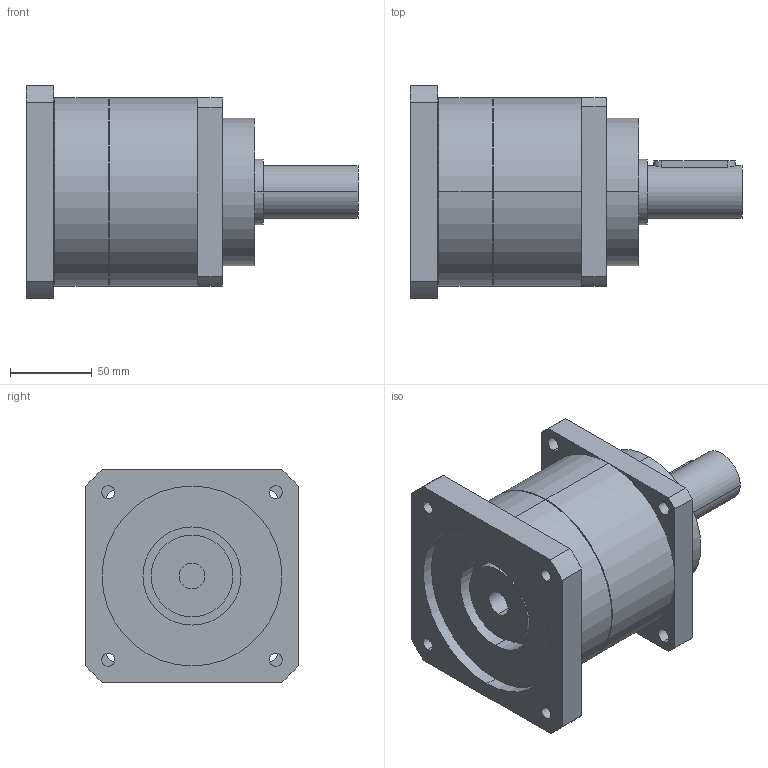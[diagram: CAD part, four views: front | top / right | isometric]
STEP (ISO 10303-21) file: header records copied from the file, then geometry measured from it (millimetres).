
FILE_DESCRIPTION(('CoCreate Modeling STEP Export'),'2;1');
FILE_NAME('GPT120_ig-3-4-5-7-10_32_B5A_15.87_P12.stp','2015-02-04T16:07:47',(''),(''),'CoCreate Modeling STEP processor for AP214 (Solid Model)','CoCreate Modeling 16.00C 25-Feb-2009 (C) Parametric Technology GmbH','');
FILE_SCHEMA(('AUTOMOTIVE_DESIGN { 1 0 10303 214 1 1 1 1 }'));
Length unit declared in the file: millimetre
Products named in the file (2): GPT120_ig-3-4-5-7-10_32_B5A_15.87_P12
Assembly tree (1 placements, depth 2):
  GPT120_ig-3-4-5-7-10_32_B5A_15.87_P12
    GPT120_ig-3-4-5-7-10_32_B5A_15.87_P12
Bounding box: 203 x 130 x 130 mm (x, y, z)
Volume: 1480369.6 mm3; surface area: 109168 mm2
Topology: 1 solids, 1 shells, 77 faces, 206 edges, 141 vertices
Faces by surface type: cylinder 46, plane 27, cone 4
Entity records: 2578 total; most frequent: CARTESIAN_POINT 761, ORIENTED_EDGE 412, DIRECTION 320, EDGE_CURVE 206, VERTEX_POINT 141, AXIS2_PLACEMENT_3D 118, EDGE_LOOP 103, VECTOR 84
